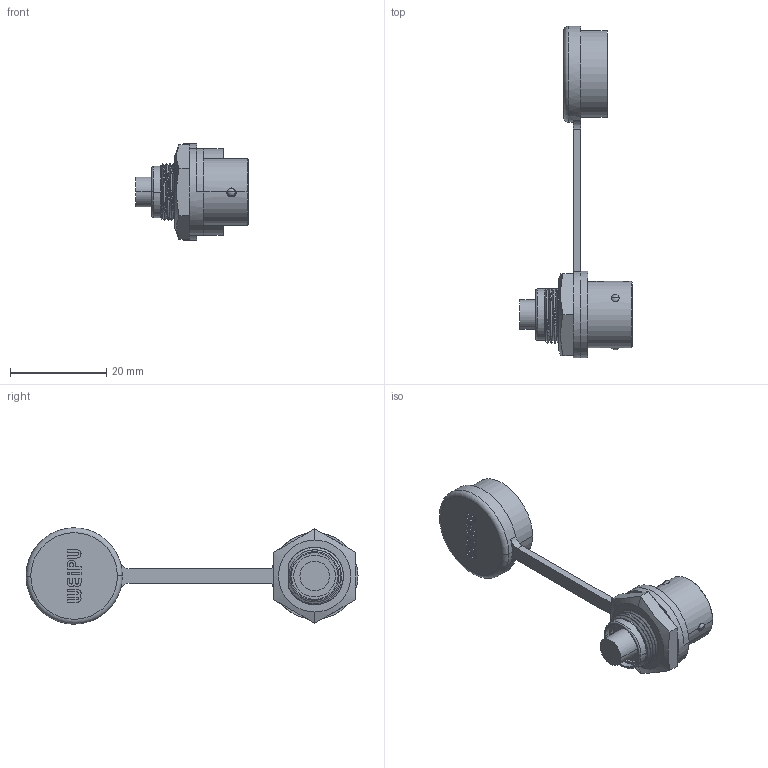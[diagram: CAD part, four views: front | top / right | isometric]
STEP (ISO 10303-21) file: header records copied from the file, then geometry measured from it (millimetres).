
FILE_DESCRIPTION((''),'2;1');
FILE_NAME('SF1212-S3','2022-01-19T',('Administrator'),(''),'CREO PARAMETRIC BY PTC INC, 2016130','CREO PARAMETRIC BY PTC INC, 2016130','');
FILE_SCHEMA(('CONFIG_CONTROL_DESIGN'));
Length unit declared in the file: millimetre
Products named in the file (1): SF1212-S3
Bounding box: 23.33 x 69 x 20 mm (x, y, z)
Volume: 4879.3 mm3; surface area: 3523.7 mm2
Topology: 1 solids, 3 shells, 177 faces, 481 edges, 323 vertices
Faces by surface type: plane 87, cylinder 54, cone 12, bspline 12, torus 6, sphere 6
Entity records: 7040 total; most frequent: CARTESIAN_POINT 2536, ORIENTED_EDGE 952, DIRECTION 891, EDGE_CURVE 476, AXIS2_PLACEMENT_3D 329, VERTEX_POINT 323, VECTOR 233, LINE 233
